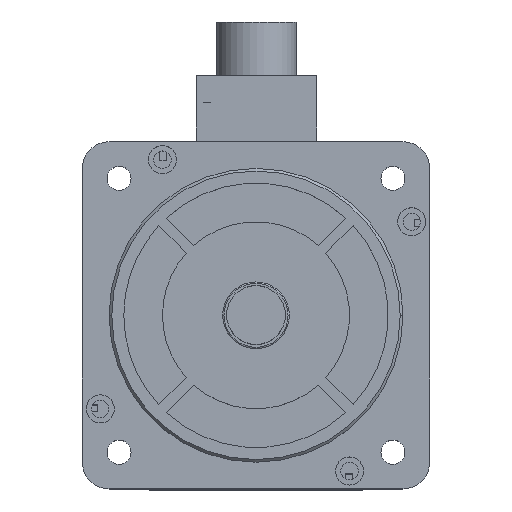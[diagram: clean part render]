
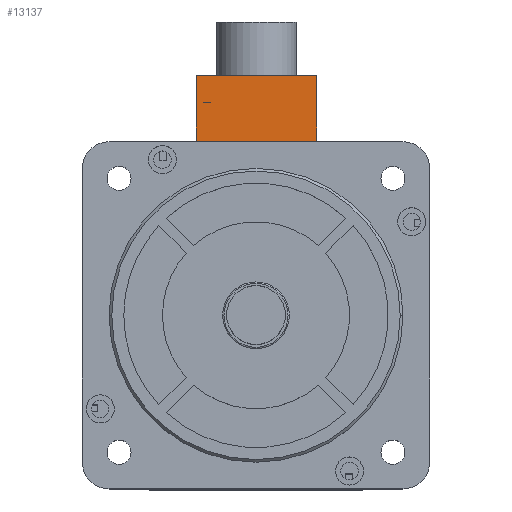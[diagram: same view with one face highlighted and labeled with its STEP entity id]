
A CAD part, top view. The second image highlights one B-rep face of the part: STEP entity #13137.
In plain terms, the highlighted planar face has unit normal (0, 0, 1) as drawn and (0, -1, 0) by its records, which use the part's own axes.
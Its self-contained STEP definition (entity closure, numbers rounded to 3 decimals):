
#1046 = CARTESIAN_POINT ( 'NONE',  ( 0., 0., -25. ) ) ;
#1195 = VECTOR ( 'NONE', #11394, 1000. ) ;
#3793 = AXIS2_PLACEMENT_3D ( 'NONE', #4429, #6257, #8458 ) ;
#3808 = CARTESIAN_POINT ( 'NONE',  ( 0., 0., -25. ) ) ;
#4429 = CARTESIAN_POINT ( 'NONE',  ( 0., 0., -25. ) ) ;
#4503 = CARTESIAN_POINT ( 'NONE',  ( 0., 0., 0. ) ) ;
#4965 = DIRECTION ( 'NONE',  ( 1., 0., 0. ) ) ;
#5139 = EDGE_CURVE ( 'NONE', #20017, #24279, #16564, .T. ) ;
#5286 = EDGE_CURVE ( 'NONE', #10584, #24279, #20572, .T. ) ;
#5405 = EDGE_CURVE ( 'NONE', #19936, #20017, #9914, .T. ) ;
#5716 = EDGE_CURVE ( 'NONE', #10584, #19936, #23696, .T. ) ;
#6257 = DIRECTION ( 'NONE',  ( 0., -1., 0. ) ) ;
#7739 = CARTESIAN_POINT ( 'NONE',  ( 0., 0., 0. ) ) ;
#8425 = FACE_OUTER_BOUND ( 'NONE', #18740, .T. ) ;
#8458 = DIRECTION ( 'NONE',  ( 0., 0., -1. ) ) ;
#8610 = DIRECTION ( 'NONE',  ( -1., 0., 0. ) ) ;
#9914 = LINE ( 'NONE', #3808, #14311 ) ;
#10157 = ORIENTED_EDGE ( 'NONE', *, *, #5716, .T. ) ;
#10584 = VERTEX_POINT ( 'NONE', #20369 ) ;
#10690 = ORIENTED_EDGE ( 'NONE', *, *, #5139, .T. ) ;
#11228 = CARTESIAN_POINT ( 'NONE',  ( 45., 0., -25. ) ) ;
#11394 = DIRECTION ( 'NONE',  ( 0., 0., -1. ) ) ;
#11465 = VECTOR ( 'NONE', #8610, 1000. ) ;
#12000 = DIRECTION ( 'NONE',  ( 0., 0., -1. ) ) ;
#13137 = ADVANCED_FACE ( 'NONE', ( #8425 ), #18257, .T. ) ;
#14311 = VECTOR ( 'NONE', #12000, 1000. ) ;
#16564 = LINE ( 'NONE', #1046, #18445 ) ;
#18257 = PLANE ( 'NONE',  #3793 ) ;
#18445 = VECTOR ( 'NONE', #4965, 1000. ) ;
#18740 = EDGE_LOOP ( 'NONE', ( #10157, #22560, #10690, #22112 ) ) ;
#19626 = CARTESIAN_POINT ( 'NONE',  ( 0., 0., -25. ) ) ;
#19936 = VERTEX_POINT ( 'NONE', #7739 ) ;
#20017 = VERTEX_POINT ( 'NONE', #19626 ) ;
#20369 = CARTESIAN_POINT ( 'NONE',  ( 45., 0., 0. ) ) ;
#20572 = LINE ( 'NONE', #11228, #1195 ) ;
#21007 = CARTESIAN_POINT ( 'NONE',  ( 45., 0., -25. ) ) ;
#22112 = ORIENTED_EDGE ( 'NONE', *, *, #5286, .F. ) ;
#22560 = ORIENTED_EDGE ( 'NONE', *, *, #5405, .T. ) ;
#23696 = LINE ( 'NONE', #4503, #11465 ) ;
#24279 = VERTEX_POINT ( 'NONE', #21007 ) ;
